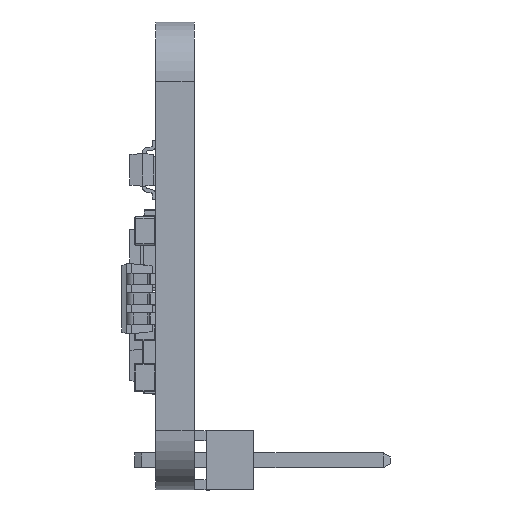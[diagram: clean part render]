
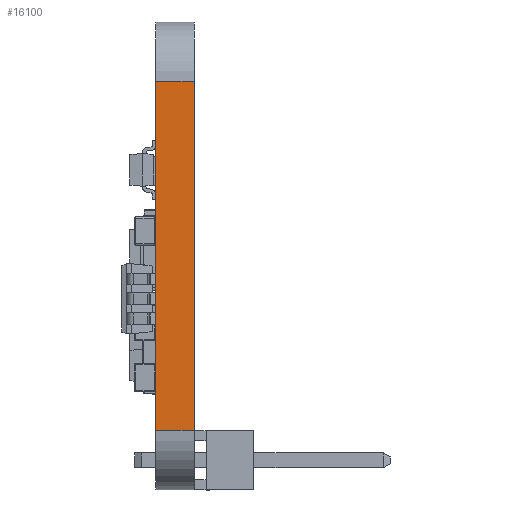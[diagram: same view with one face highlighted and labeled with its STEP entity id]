
A CAD part, left-side view. The second image highlights one B-rep face of the part: STEP entity #16100.
In plain terms, the highlighted planar face has unit normal (-1, 0, 0).
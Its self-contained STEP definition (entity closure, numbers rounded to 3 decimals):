
#2542 = LINE ( 'NONE', #15490, #31187 ) ;
#3389 = VERTEX_POINT ( 'NONE', #46859 ) ;
#3448 = ORIENTED_EDGE ( 'NONE', *, *, #50976, .T. ) ;
#3712 = DIRECTION ( 'NONE',  ( 0., 0., 1. ) ) ;
#10798 = LINE ( 'NONE', #14659, #53830 ) ;
#14659 = CARTESIAN_POINT ( 'NONE',  ( -10.15, 1.651, 7.46 ) ) ;
#15128 = PLANE ( 'NONE',  #19613 ) ;
#15229 = DIRECTION ( 'NONE',  ( 0., 0., 1. ) ) ;
#15490 = CARTESIAN_POINT ( 'NONE',  ( -10.15, 1.651, 7.46 ) ) ;
#16100 = ADVANCED_FACE ( 'NONE', ( #52890 ), #15128, .F. ) ;
#17399 = EDGE_LOOP ( 'NONE', ( #37068, #30487, #30942, #3448 ) ) ;
#19082 = CARTESIAN_POINT ( 'NONE',  ( -10.15, 1.651, -7.46 ) ) ;
#19613 = AXIS2_PLACEMENT_3D ( 'NONE', #31966, #48787, #23684 ) ;
#23146 = VECTOR ( 'NONE', #35921, 1000. ) ;
#23684 = DIRECTION ( 'NONE',  ( 0., 0., -1. ) ) ;
#26423 = CARTESIAN_POINT ( 'NONE',  ( -10.15, 0., -7.46 ) ) ;
#30487 = ORIENTED_EDGE ( 'NONE', *, *, #45468, .F. ) ;
#30942 = ORIENTED_EDGE ( 'NONE', *, *, #51961, .F. ) ;
#31187 = VECTOR ( 'NONE', #15229, 1000. ) ;
#31805 = CARTESIAN_POINT ( 'NONE',  ( -10.15, 1.651, 7.46 ) ) ;
#31966 = CARTESIAN_POINT ( 'NONE',  ( -10.15, 1.651, 7.46 ) ) ;
#34043 = CARTESIAN_POINT ( 'NONE',  ( -10.15, 0., 7.46 ) ) ;
#34458 = VERTEX_POINT ( 'NONE', #46753 ) ;
#35921 = DIRECTION ( 'NONE',  ( 0., -1., 0. ) ) ;
#37068 = ORIENTED_EDGE ( 'NONE', *, *, #38147, .T. ) ;
#38147 = EDGE_CURVE ( 'NONE', #51362, #34458, #50312, .T. ) ;
#38262 = VERTEX_POINT ( 'NONE', #31805 ) ;
#39496 = DIRECTION ( 'NONE',  ( 0., -1., 0. ) ) ;
#40594 = LINE ( 'NONE', #19082, #23146 ) ;
#45468 = EDGE_CURVE ( 'NONE', #38262, #34458, #10798, .T. ) ;
#46753 = CARTESIAN_POINT ( 'NONE',  ( -10.15, 0., 7.46 ) ) ;
#46859 = CARTESIAN_POINT ( 'NONE',  ( -10.15, 1.651, -7.46 ) ) ;
#48787 = DIRECTION ( 'NONE',  ( 1., 0., 0. ) ) ;
#50312 = LINE ( 'NONE', #34043, #51941 ) ;
#50976 = EDGE_CURVE ( 'NONE', #3389, #51362, #40594, .T. ) ;
#51362 = VERTEX_POINT ( 'NONE', #26423 ) ;
#51941 = VECTOR ( 'NONE', #3712, 1000. ) ;
#51961 = EDGE_CURVE ( 'NONE', #3389, #38262, #2542, .T. ) ;
#52890 = FACE_OUTER_BOUND ( 'NONE', #17399, .T. ) ;
#53830 = VECTOR ( 'NONE', #39496, 1000. ) ;
